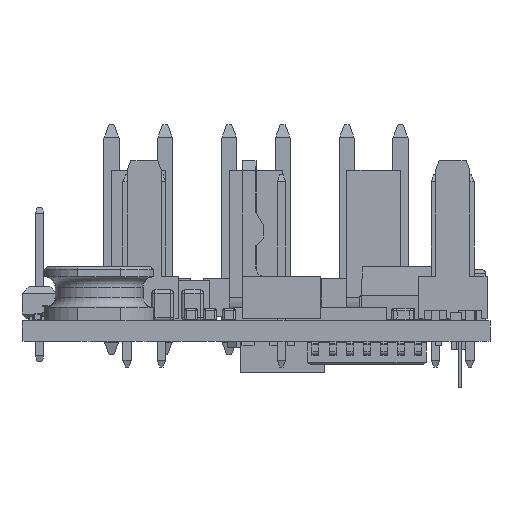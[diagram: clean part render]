
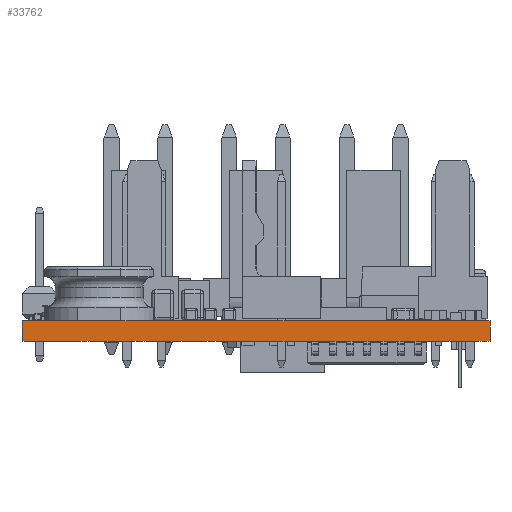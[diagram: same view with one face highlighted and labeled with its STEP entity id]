
A CAD part, front view. The second image highlights one B-rep face of the part: STEP entity #33762.
In plain terms, the highlighted planar face has unit normal (0, -1, 0).
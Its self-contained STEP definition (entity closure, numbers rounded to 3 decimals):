
#5495=FACE_OUTER_BOUND('',#7288,.T.);
#7288=EDGE_LOOP('',(#29685,#29686,#29687,#29688));
#10807=LINE('',#59011,#13612);
#10808=LINE('',#59014,#13613);
#10809=LINE('',#59016,#13614);
#10810=LINE('',#59017,#13615);
#13612=VECTOR('',#46588,10.);
#13613=VECTOR('',#46591,10.);
#13614=VECTOR('',#46592,10.);
#13615=VECTOR('',#46593,10.);
#16610=VERTEX_POINT('',#59007);
#16611=VERTEX_POINT('',#59009);
#16612=VERTEX_POINT('',#59013);
#16613=VERTEX_POINT('',#59015);
#21209=EDGE_CURVE('',#16610,#16611,#10807,.T.);
#21210=EDGE_CURVE('',#16612,#16610,#10808,.T.);
#21211=EDGE_CURVE('',#16613,#16611,#10809,.T.);
#21212=EDGE_CURVE('',#16612,#16613,#10810,.T.);
#29685=ORIENTED_EDGE('',*,*,#21210,.T.);
#29686=ORIENTED_EDGE('',*,*,#21209,.T.);
#29687=ORIENTED_EDGE('',*,*,#21211,.F.);
#29688=ORIENTED_EDGE('',*,*,#21212,.F.);
#31302=PLANE('',#37306);
#33762=ADVANCED_FACE('',(#5495),#31302,.T.);
#37306=AXIS2_PLACEMENT_3D('',#59012,#46589,#46590);
#46588=DIRECTION('',(0.,0.,1.));
#46589=DIRECTION('center_axis',(0.,-1.,0.));
#46590=DIRECTION('ref_axis',(1.,0.,0.));
#46591=DIRECTION('',(1.,0.,0.));
#46592=DIRECTION('',(1.,0.,0.));
#46593=DIRECTION('',(0.,0.,1.));
#59007=CARTESIAN_POINT('',(34.8,0.2,0.));
#59009=CARTESIAN_POINT('',(34.8,0.2,1.5));
#59011=CARTESIAN_POINT('',(34.8,0.2,0.));
#59012=CARTESIAN_POINT('Origin',(0.2,0.2,0.));
#59013=CARTESIAN_POINT('',(0.2,0.2,0.));
#59014=CARTESIAN_POINT('',(0.2,0.2,0.));
#59015=CARTESIAN_POINT('',(0.2,0.2,1.5));
#59016=CARTESIAN_POINT('',(0.2,0.2,1.5));
#59017=CARTESIAN_POINT('',(0.2,0.2,0.));
